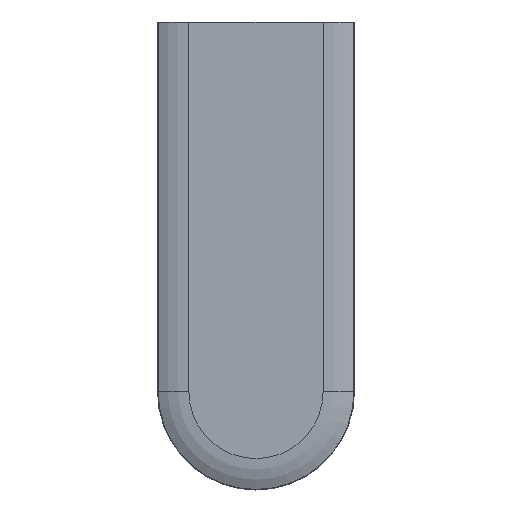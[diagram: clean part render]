
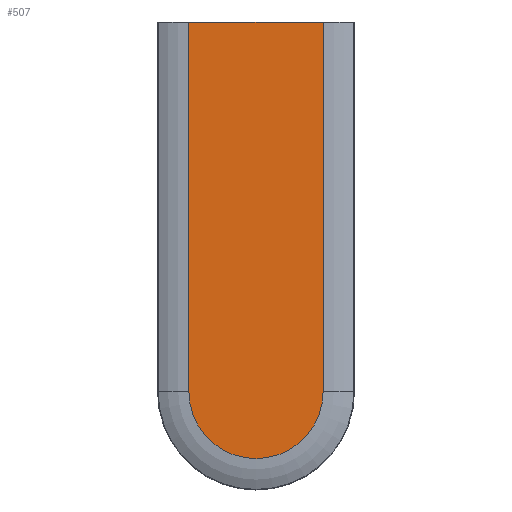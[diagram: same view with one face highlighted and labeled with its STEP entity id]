
A CAD part, top view. The second image highlights one B-rep face of the part: STEP entity #507.
In plain terms, the highlighted planar face has unit normal (0, 0, 1).
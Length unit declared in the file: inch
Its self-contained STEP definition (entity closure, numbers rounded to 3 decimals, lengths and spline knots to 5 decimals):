
#249=CARTESIAN_POINT('',(-1.18302,4.56897,0.54031));
#250=VERTEX_POINT('',#249);
#258=CARTESIAN_POINT('',(-0.754,4.56897,0.54031));
#259=VERTEX_POINT('',#258);
#260=CARTESIAN_POINT('',(-1.18302,4.56897,0.54031));
#261=DIRECTION('',(1.0,0.0,0.0));
#262=VECTOR('',#261,0.42902);
#263=LINE('',#260,#262);
#264=EDGE_CURVE('',#250,#259,#263,.T.);
#463=CARTESIAN_POINT('',(-1.18302,3.38787,0.54031));
#464=VERTEX_POINT('',#463);
#472=CARTESIAN_POINT('',(-1.18302,4.56897,0.54031));
#473=DIRECTION('',(0.0,-1.0,0.0));
#474=VECTOR('',#473,1.1811);
#475=LINE('',#472,#474);
#476=EDGE_CURVE('',#250,#464,#475,.T.);
#483=CARTESIAN_POINT('',(-1.18302,4.56897,0.54031));
#484=DIRECTION('',(0.0,0.0,1.0));
#485=DIRECTION('',(1.0,0.0,0.0));
#486=AXIS2_PLACEMENT_3D('',#483,#484,#485);
#487=PLANE('',#486);
#488=CARTESIAN_POINT('',(-0.754,3.38787,0.54031));
#489=VERTEX_POINT('',#488);
#490=CARTESIAN_POINT('',(-0.754,4.56897,0.54031));
#491=DIRECTION('',(0.0,-1.0,0.0));
#492=VECTOR('',#491,1.1811);
#493=LINE('',#490,#492);
#494=EDGE_CURVE('',#259,#489,#493,.T.);
#495=ORIENTED_EDGE('',*,*,#494,.F.);
#496=ORIENTED_EDGE('',*,*,#264,.F.);
#497=ORIENTED_EDGE('',*,*,#476,.T.);
#498=CARTESIAN_POINT('',(-0.96851,3.38787,0.54031));
#499=DIRECTION('',(0.0,0.0,-1.0));
#500=DIRECTION('',(1.0,0.0,0.0));
#501=AXIS2_PLACEMENT_3D('',#498,#499,#500);
#502=CIRCLE('',#501,0.21451);
#503=EDGE_CURVE('',#489,#464,#502,.T.);
#504=ORIENTED_EDGE('',*,*,#503,.F.);
#505=EDGE_LOOP('',(#495,#496,#497,#504));
#506=FACE_OUTER_BOUND('',#505,.T.);
#507=ADVANCED_FACE('',(#506),#487,.T.);
